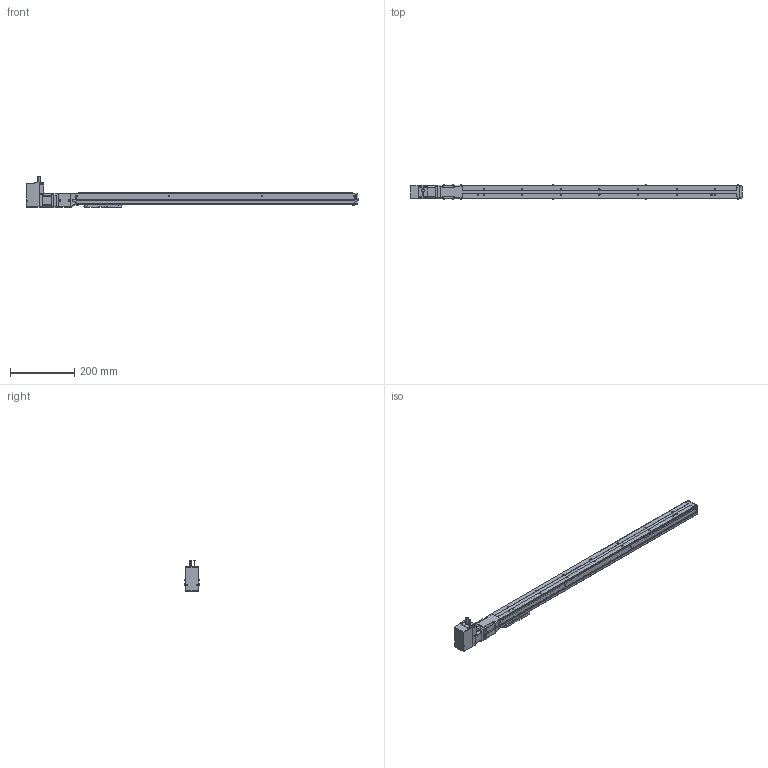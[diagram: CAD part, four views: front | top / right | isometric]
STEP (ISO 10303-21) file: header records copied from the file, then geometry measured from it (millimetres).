
FILE_DESCRIPTION(('FreeCAD Model'),'2;1');
FILE_NAME('Open CASCADE Shape Model','2023-08-01T18:16:48',('Author'),( ''),'Open CASCADE STEP processor 7.5','FreeCAD','Unknown');
FILE_SCHEMA(('AUTOMOTIVE_DESIGN { 1 0 10303 214 1 1 1 1 }'));
Length unit declared in the file: millimetre
Products named in the file (20): RCB0411; Shapes; Shapes001; Shapes002; Shapes003; Shapes004; Shapes005; Shapes006; Shapes007; Shapes008; Shapes009; Shapes010; Shapes011; Shapes012; Shapes013; KSF4-10-0700-0-AR(0); KSF4---(Cover); KSF4-AR---(Motor bracket); KSF4-10-0700---(slider); KSF4-10-0700-0-AR-(07000ARNo0)---(body)
Assembly tree (19 placements, depth 3):
  RCB0411
    Shapes
    Shapes001
    Shapes002
    Shapes003
    Shapes004
    Shapes005
    Shapes006
    Shapes007
    Shapes008
    Shapes009
    Shapes010
    Shapes011
    Shapes012
    Shapes013
    KSF4-10-0700-0-AR(0)
      KSF4---(Cover)
      KSF4-AR---(Motor bracket)
      KSF4-10-0700---(slider)
      KSF4-10-0700-0-AR-(07000ARNo0)---(body)
Bounding box: 1032 x 45.4 x 97.64 mm (x, y, z)
Volume: 1635459.6 mm3; surface area: 305688.8 mm2
Topology: 18 solids, 18 shells, 1301 faces, 3354 edges, 2188 vertices
Faces by surface type: plane 719, cylinder 432, cone 68, torus 53, bspline 19, revolution 6, sphere 4
Full cylindrical faces by diameter (mm): 2.113 x8, 2.459 x3, 3 x6, 3.242 x4, 3.4 x18, 4 x3, 4.5 x2, 5.5 x8, 6 x1, 6.5 x20, 8 x1, 12 x1, 22 x1, 28 x1, 30 x2
Entity records: 94882 total; most frequent: CARTESIAN_POINT 27154, DIRECTION 12729, LINE 7559, VECTOR 7559, ORIENTED_EDGE 6672, PCURVE 6672, DEFINITIONAL_REPRESENTATION 6672, EDGE_CURVE 3336
